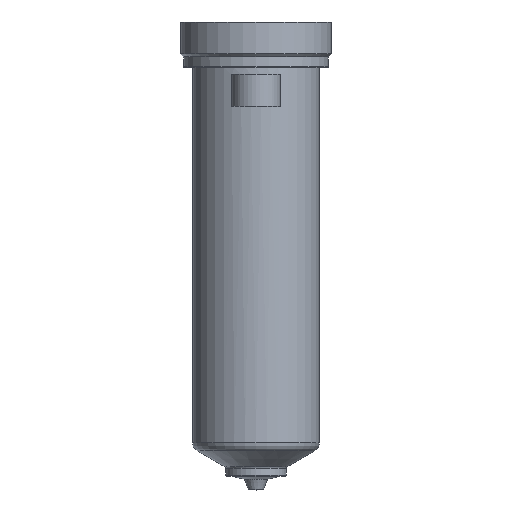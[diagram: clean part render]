
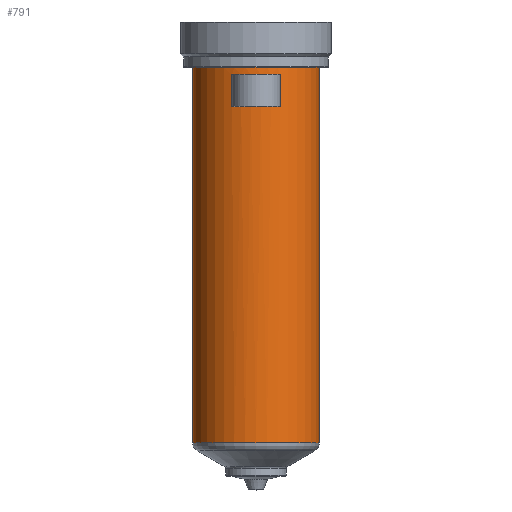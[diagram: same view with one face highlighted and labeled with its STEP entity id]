
A CAD part, top view. The second image highlights one B-rep face of the part: STEP entity #791.
In plain terms, the highlighted cylindrical face has radius 21 mm (diameter 42 mm), a partial arc.
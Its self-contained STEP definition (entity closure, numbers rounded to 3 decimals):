
#199=DIRECTION('',(0.,-1.,0.));
#200=VECTOR('',#199,124.428);
#201=CARTESIAN_POINT('',(21.,0.,0.));
#202=LINE('',#201,#200);
#203=CARTESIAN_POINT('',(0.,-124.428,0.));
#204=DIRECTION('',(0.,1.,0.));
#205=DIRECTION('',(-1.,0.,0.));
#206=AXIS2_PLACEMENT_3D('',#203,#204,#205);
#208=DIRECTION('',(0.,1.,0.));
#209=VECTOR('',#208,124.428);
#210=CARTESIAN_POINT('',(-21.,-124.428,0.));
#211=LINE('',#210,#209);
#212=CARTESIAN_POINT('',(0.,0.,0.));
#213=DIRECTION('',(0.,1.,0.));
#214=DIRECTION('',(-1.,0.,0.));
#215=AXIS2_PLACEMENT_3D('',#212,#213,#214);
#361=DIRECTION('',(0.,-1.,0.));
#362=VECTOR('',#361,10.5);
#363=CARTESIAN_POINT('',(-8.,-2.5,19.416));
#364=LINE('',#363,#362);
#365=CARTESIAN_POINT('',(0.,-13.,0.));
#366=DIRECTION('',(0.,1.,0.));
#367=DIRECTION('',(-0.381,0.,0.925));
#368=AXIS2_PLACEMENT_3D('',#365,#366,#367);
#391=CARTESIAN_POINT('',(0.,-2.5,0.));
#392=DIRECTION('',(0.,-1.,0.));
#393=DIRECTION('',(0.381,0.,0.925));
#394=AXIS2_PLACEMENT_3D('',#391,#392,#393);
#409=DIRECTION('',(0.,-1.,0.));
#410=VECTOR('',#409,10.5);
#411=CARTESIAN_POINT('',(8.,-2.5,19.416));
#412=LINE('',#411,#410);
#470=CARTESIAN_POINT('',(-21.,0.,0.));
#471=CARTESIAN_POINT('',(21.,0.,0.));
#472=VERTEX_POINT('',#470);
#473=VERTEX_POINT('',#471);
#482=CARTESIAN_POINT('',(-8.,-2.5,19.416));
#483=VERTEX_POINT('',#482);
#484=CARTESIAN_POINT('',(8.,-2.5,19.416));
#485=VERTEX_POINT('',#484);
#522=CARTESIAN_POINT('',(21.,-124.428,0.));
#523=VERTEX_POINT('',#522);
#532=CARTESIAN_POINT('',(-21.,-124.428,0.));
#533=VERTEX_POINT('',#532);
#550=CARTESIAN_POINT('',(-8.,-13.,19.416));
#551=CARTESIAN_POINT('',(8.,-13.,19.416));
#552=VERTEX_POINT('',#550);
#553=VERTEX_POINT('',#551);
#769=CARTESIAN_POINT('',(0.,16.4,0.));
#770=DIRECTION('',(0.,-1.,0.));
#771=DIRECTION('',(-1.,0.,0.));
#772=AXIS2_PLACEMENT_3D('',#769,#770,#771);
#773=CYLINDRICAL_SURFACE('',#772,21.);
#774=ORIENTED_EDGE('',*,*,#763,.T.);
#776=ORIENTED_EDGE('',*,*,#775,.F.);
#777=ORIENTED_EDGE('',*,*,#759,.T.);
#778=ORIENTED_EDGE('',*,*,#749,.T.);
#779=EDGE_LOOP('',(#774,#776,#777,#778));
#780=FACE_OUTER_BOUND('',#779,.F.);
#782=ORIENTED_EDGE('',*,*,#781,.T.);
#784=ORIENTED_EDGE('',*,*,#783,.T.);
#786=ORIENTED_EDGE('',*,*,#785,.F.);
#788=ORIENTED_EDGE('',*,*,#787,.T.);
#789=EDGE_LOOP('',(#782,#784,#786,#788));
#790=FACE_BOUND('',#789,.F.);
#791=ADVANCED_FACE('',(#780,#790),#773,.T.);
#207=CIRCLE('',#206,21.);
#216=CIRCLE('',#215,21.);
#369=CIRCLE('',#368,21.);
#395=CIRCLE('',#394,21.);
#749=EDGE_CURVE('',#472,#473,#216,.T.);
#759=EDGE_CURVE('',#533,#472,#211,.T.);
#763=EDGE_CURVE('',#473,#523,#202,.T.);
#775=EDGE_CURVE('',#533,#523,#207,.T.);
#781=EDGE_CURVE('',#483,#552,#364,.T.);
#783=EDGE_CURVE('',#552,#553,#369,.T.);
#785=EDGE_CURVE('',#485,#553,#412,.T.);
#787=EDGE_CURVE('',#485,#483,#395,.T.);
